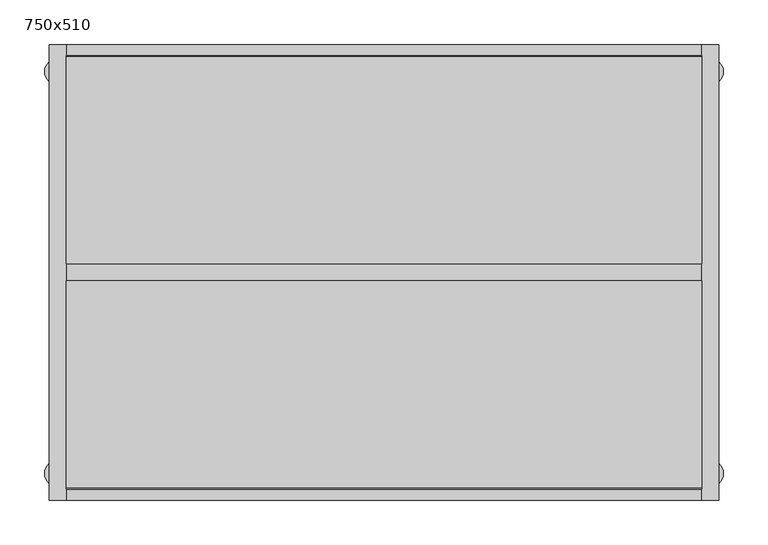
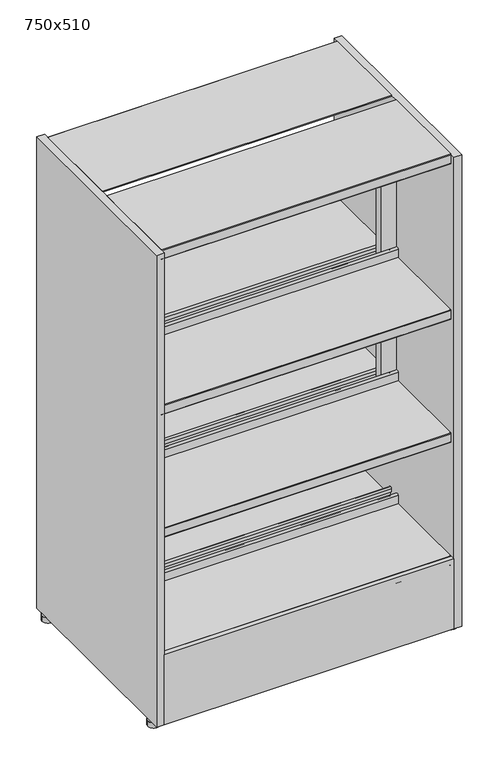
"""IFC4 building model written with IfcOpenShell, lengths in millimetres: furniture geometry, BK Library - Rondus DS - 1240 : 750x510."""

from ifc_helpers import new_model, si_unit, point, frame, frame_2d, origin, origin_with_axes, place, context, project, spatial, polyline, circle_curve, trimmed, segment, composite_curve, outline, extrude, source, transform, mapped, element, save


def furniture_750x510_c864f297(model_context):
    return source(origin(), model_context, "Body", "SweptSolid", [
        extrude(outline(polyline([(356.0, 255.0), (356.0, 242.7476624), (-356.0, 242.7476624), (-356.0, 255.0), (356.0, 255.0)])), frame((0.0, 0.0, 13.6999998), z_axis=(0.0, 0.0, 1.0), x_axis=(1.0, 0.0, 0.0)), (0.0, 0.0, 1.0), 181.4999514),
        extrude(outline(polyline([(356.0, -242.7476624), (356.0, -255.0), (-356.0, -255.0), (-356.0, -242.7476624), (356.0, -242.7476624)])), frame((0.0, 0.0, 13.6999998), z_axis=(0.0, 0.0, 1.0), x_axis=(1.0, 0.0, 0.0)), (0.0, 0.0, 1.0), 181.4999514),
        extrude(outline(polyline([(1106.1999512, -356.0), (391.1999512, -356.0), (391.1999512, 356.0), (1106.1999512, 356.0), (1106.1999512, -356.0)]), holes=[polyline([(1066.1999514, -317.5), (1066.1999514, 317.5), (431.1999514, 317.5), (431.1999514, -317.5), (1066.1999514, -317.5)])]), frame((0.0, -9.5, 0.0), z_axis=(0.0, 1.0, 0.0), x_axis=(0.0, 0.0, 1.0)), (0.0, 0.0, 1.0), 19.0),
        extrude(outline(composite_curve([segment(polyline([(9.5, 1240.0), (241.25, 1240.0)]), True, "CONTINUOUS"), segment(trimmed(circle_curve(frame_2d((241.25, 1238.5)), 1.5), [point((241.25, 1240.0))], [point((242.75, 1238.5))], False, "CARTESIAN"), True, "CONTINUOUS"), segment(polyline([(242.75, 1238.5), (242.75, 1216.5)]), True, "CONTINUOUS"), segment(trimmed(circle_curve(frame_2d((241.25, 1216.5)), 1.5), [point((242.75, 1216.5))], [point((241.25, 1215.0))], False, "CARTESIAN"), True, "CONTINUOUS"), segment(polyline([(241.25, 1215.0), (229.25, 1215.0), (229.25, 1216.5), (241.25, 1216.5), (241.25, 1238.0), (9.5, 1238.0), (9.5, 1240.0)]), True, "CONTINUOUS")], self_intersect=False)), frame((-356.0, 0.0, 0.0), z_axis=(1.0, 0.0, 0.0), x_axis=(0.0, 1.0, 0.0)), (0.0, 0.0, 1.0), 712.0),
        extrude(outline(composite_curve([segment(polyline([(17.75, 835.1999512), (241.25, 835.1999512)]), True, "CONTINUOUS"), segment(trimmed(circle_curve(frame_2d((241.25, 833.6999512)), 1.5), [point((241.25, 835.1999512))], [point((242.75, 833.6999512))], False, "CARTESIAN"), True, "CONTINUOUS"), segment(polyline([(242.75, 833.6999512), (242.75, 812.1999512)]), True, "CONTINUOUS"), segment(trimmed(circle_curve(frame_2d((241.25, 812.1999512)), 1.5), [point((242.75, 812.1999512))], [point((241.25, 810.6999512))], False, "CARTESIAN"), True, "CONTINUOUS"), segment(polyline([(241.25, 810.6999512), (229.25, 810.6999512), (229.25, 812.1999512), (241.25, 812.1999512), (241.25, 833.6999512), (17.7048221, 833.6999512)]), True, "CONTINUOUS"), segment(trimmed(circle_curve(frame_2d((17.7048221, 835.1547733)), 1.4548221), [point((17.7048221, 833.6999512))], [point((16.25, 835.1547733))], False, "CARTESIAN"), True, "CONTINUOUS"), segment(polyline([(16.25, 835.1547733), (16.25, 856.7020126)]), True, "CONTINUOUS"), segment(trimmed(circle_curve(frame_2d((14.25, 856.7020126)), 2.0), [point((16.25, 856.7020126))], [point((12.25, 856.7020126))], True, "CARTESIAN"), True, "CONTINUOUS"), segment(polyline([(12.25, 856.7020126), (12.25, 848.1999512), (10.75, 848.1999512), (10.75, 856.7196336)]), True, "CONTINUOUS"), segment(trimmed(circle_curve(frame_2d((14.25, 856.7196336)), 3.5), [point((10.75, 856.7196336))], [point((17.75, 856.7196336))], False, "CARTESIAN"), True, "CONTINUOUS"), segment(polyline([(17.75, 856.7196336), (17.75, 835.1999512)]), True, "CONTINUOUS")], self_intersect=False)), frame((-356.0, 0.0, 0.0), z_axis=(1.0, 0.0, 0.0), x_axis=(0.0, 1.0, 0.0)), (0.0, 0.0, 1.0), 712.0),
        extrude(outline(composite_curve([segment(polyline([(17.75, 515.1999512), (241.25, 515.1999512)]), True, "CONTINUOUS"), segment(trimmed(circle_curve(frame_2d((241.25, 513.6999512)), 1.5), [point((241.25, 515.1999512))], [point((242.75, 513.6999512))], False, "CARTESIAN"), True, "CONTINUOUS"), segment(polyline([(242.75, 513.6999512), (242.75, 492.1999512)]), True, "CONTINUOUS"), segment(trimmed(circle_curve(frame_2d((241.25, 492.1999512)), 1.5), [point((242.75, 492.1999512))], [point((241.25, 490.6999512))], False, "CARTESIAN"), True, "CONTINUOUS"), segment(polyline([(241.25, 490.6999512), (229.25, 490.6999512), (229.25, 492.1999512), (241.25, 492.1999512), (241.25, 513.6999512), (17.7048221, 513.6999512)]), True, "CONTINUOUS"), segment(trimmed(circle_curve(frame_2d((17.7048221, 515.1547733)), 1.4548221), [point((17.7048221, 513.6999512))], [point((16.25, 515.1547733))], False, "CARTESIAN"), True, "CONTINUOUS"), segment(polyline([(16.25, 515.1547733), (16.25, 536.7020126)]), True, "CONTINUOUS"), segment(trimmed(circle_curve(frame_2d((14.25, 536.7020126)), 2.0), [point((16.25, 536.7020126))], [point((12.25, 536.7020126))], True, "CARTESIAN"), True, "CONTINUOUS"), segment(polyline([(12.25, 536.7020126), (12.25, 528.1999512), (10.75, 528.1999512), (10.75, 536.7196336)]), True, "CONTINUOUS"), segment(trimmed(circle_curve(frame_2d((14.25, 536.7196336)), 3.5), [point((10.75, 536.7196336))], [point((17.75, 536.7196336))], False, "CARTESIAN"), True, "CONTINUOUS"), segment(polyline([(17.75, 536.7196336), (17.75, 515.1999512)]), True, "CONTINUOUS")], self_intersect=False)), frame((-356.0, 0.0, 0.0), z_axis=(1.0, 0.0, 0.0), x_axis=(0.0, 1.0, 0.0)), (0.0, 0.0, 1.0), 712.0),
        extrude(outline(composite_curve([segment(polyline([(17.75, 195.1999512), (241.25, 195.1999512)]), True, "CONTINUOUS"), segment(trimmed(circle_curve(frame_2d((241.25, 193.6999512)), 1.5), [point((241.25, 195.1999512))], [point((242.75, 193.6999512))], False, "CARTESIAN"), True, "CONTINUOUS"), segment(polyline([(242.75, 193.6999512), (242.75, 172.1999512)]), True, "CONTINUOUS"), segment(trimmed(circle_curve(frame_2d((241.25, 172.1999512)), 1.5), [point((242.75, 172.1999512))], [point((241.25, 170.6999512))], False, "CARTESIAN"), True, "CONTINUOUS"), segment(polyline([(241.25, 170.6999512), (229.25, 170.6999512), (229.25, 172.1999512), (241.25, 172.1999512), (241.25, 193.6999512), (17.7048221, 193.6999512)]), True, "CONTINUOUS"), segment(trimmed(circle_curve(frame_2d((17.7048221, 195.1547733)), 1.4548221), [point((17.7048221, 193.6999512))], [point((16.25, 195.1547733))], False, "CARTESIAN"), True, "CONTINUOUS"), segment(polyline([(16.25, 195.1547733), (16.25, 216.7020126)]), True, "CONTINUOUS"), segment(trimmed(circle_curve(frame_2d((14.25, 216.7020126)), 2.0), [point((16.25, 216.7020126))], [point((12.25, 216.7020126))], True, "CARTESIAN"), True, "CONTINUOUS"), segment(polyline([(12.25, 216.7020126), (12.25, 208.1999512), (10.75, 208.1999512), (10.75, 216.7196336)]), True, "CONTINUOUS"), segment(trimmed(circle_curve(frame_2d((14.25, 216.7196336)), 3.5), [point((10.75, 216.7196336))], [point((17.75, 216.7196336))], False, "CARTESIAN"), True, "CONTINUOUS"), segment(polyline([(17.75, 216.7196336), (17.75, 195.1999512)]), True, "CONTINUOUS")], self_intersect=False)), frame((-356.0, 0.0, 0.0), z_axis=(1.0, 0.0, 0.0), x_axis=(0.0, 1.0, 0.0)), (0.0, 0.0, 1.0), 712.0),
        extrude(outline(composite_curve([segment(polyline([(-9.5, 1240.0), (-9.5, 1238.0), (-241.25, 1238.0), (-241.25, 1216.5), (-229.25, 1216.5), (-229.25, 1215.0), (-241.25, 1215.0)]), True, "CONTINUOUS"), segment(trimmed(circle_curve(frame_2d((-241.25, 1216.5)), 1.5), [point((-241.25, 1215.0))], [point((-242.75, 1216.5))], False, "CARTESIAN"), True, "CONTINUOUS"), segment(polyline([(-242.75, 1216.5), (-242.75, 1238.5)]), True, "CONTINUOUS"), segment(trimmed(circle_curve(frame_2d((-241.25, 1238.5)), 1.5), [point((-242.75, 1238.5))], [point((-241.25, 1240.0))], False, "CARTESIAN"), True, "CONTINUOUS"), segment(polyline([(-241.25, 1240.0), (-9.5, 1240.0)]), True, "CONTINUOUS")], self_intersect=False)), frame((-356.0, 0.0, 0.0), z_axis=(1.0, 0.0, 0.0), x_axis=(0.0, 1.0, 0.0)), (0.0, 0.0, 1.0), 712.0),
        extrude(outline(composite_curve([segment(polyline([(-17.75, 835.1999512), (-17.75, 856.7196336)]), True, "CONTINUOUS"), segment(trimmed(circle_curve(frame_2d((-14.25, 856.7196336)), 3.5), [point((-17.75, 856.7196336))], [point((-10.75, 856.7196336))], False, "CARTESIAN"), True, "CONTINUOUS"), segment(polyline([(-10.75, 856.7196336), (-10.75, 848.1999512), (-12.25, 848.1999512), (-12.25, 856.7020126)]), True, "CONTINUOUS"), segment(trimmed(circle_curve(frame_2d((-14.25, 856.7020126)), 2.0), [point((-12.25, 856.7020126))], [point((-16.25, 856.7020126))], True, "CARTESIAN"), True, "CONTINUOUS"), segment(polyline([(-16.25, 856.7020126), (-16.25, 835.1547733)]), True, "CONTINUOUS"), segment(trimmed(circle_curve(frame_2d((-17.7048221, 835.1547733)), 1.4548221), [point((-16.25, 835.1547733))], [point((-17.7048221, 833.6999512))], False, "CARTESIAN"), True, "CONTINUOUS"), segment(polyline([(-17.7048221, 833.6999512), (-241.25, 833.6999512), (-241.25, 812.1999512), (-229.25, 812.1999512), (-229.25, 810.6999512), (-241.25, 810.6999512)]), True, "CONTINUOUS"), segment(trimmed(circle_curve(frame_2d((-241.25, 812.1999512)), 1.5), [point((-241.25, 810.6999512))], [point((-242.75, 812.1999512))], False, "CARTESIAN"), True, "CONTINUOUS"), segment(polyline([(-242.75, 812.1999512), (-242.75, 833.6999512)]), True, "CONTINUOUS"), segment(trimmed(circle_curve(frame_2d((-241.25, 833.6999512)), 1.5), [point((-242.75, 833.6999512))], [point((-241.25, 835.1999512))], False, "CARTESIAN"), True, "CONTINUOUS"), segment(polyline([(-241.25, 835.1999512), (-17.75, 835.1999512)]), True, "CONTINUOUS")], self_intersect=False)), frame((-356.0, 0.0, 0.0), z_axis=(1.0, 0.0, 0.0), x_axis=(0.0, 1.0, 0.0)), (0.0, 0.0, 1.0), 712.0),
        extrude(outline(composite_curve([segment(polyline([(-17.75, 515.1999512), (-17.75, 536.7196336)]), True, "CONTINUOUS"), segment(trimmed(circle_curve(frame_2d((-14.25, 536.7196336)), 3.5), [point((-17.75, 536.7196336))], [point((-10.75, 536.7196336))], False, "CARTESIAN"), True, "CONTINUOUS"), segment(polyline([(-10.75, 536.7196336), (-10.75, 528.1999512), (-12.25, 528.1999512), (-12.25, 536.7020126)]), True, "CONTINUOUS"), segment(trimmed(circle_curve(frame_2d((-14.25, 536.7020126)), 2.0), [point((-12.25, 536.7020126))], [point((-16.25, 536.7020126))], True, "CARTESIAN"), True, "CONTINUOUS"), segment(polyline([(-16.25, 536.7020126), (-16.25, 515.1547733)]), True, "CONTINUOUS"), segment(trimmed(circle_curve(frame_2d((-17.7048221, 515.1547733)), 1.4548221), [point((-16.25, 515.1547733))], [point((-17.7048221, 513.6999512))], False, "CARTESIAN"), True, "CONTINUOUS"), segment(polyline([(-17.7048221, 513.6999512), (-241.25, 513.6999512), (-241.25, 492.1999512), (-229.25, 492.1999512), (-229.25, 490.6999512), (-241.25, 490.6999512)]), True, "CONTINUOUS"), segment(trimmed(circle_curve(frame_2d((-241.25, 492.1999512)), 1.5), [point((-241.25, 490.6999512))], [point((-242.75, 492.1999512))], False, "CARTESIAN"), True, "CONTINUOUS"), segment(polyline([(-242.75, 492.1999512), (-242.75, 513.6999512)]), True, "CONTINUOUS"), segment(trimmed(circle_curve(frame_2d((-241.25, 513.6999512)), 1.5), [point((-242.75, 513.6999512))], [point((-241.25, 515.1999512))], False, "CARTESIAN"), True, "CONTINUOUS"), segment(polyline([(-241.25, 515.1999512), (-17.75, 515.1999512)]), True, "CONTINUOUS")], self_intersect=False)), frame((-356.0, 0.0, 0.0), z_axis=(1.0, 0.0, 0.0), x_axis=(0.0, 1.0, 0.0)), (0.0, 0.0, 1.0), 712.0),
        extrude(outline(composite_curve([segment(polyline([(-17.75, 195.1999512), (-17.75, 216.7196336)]), True, "CONTINUOUS"), segment(trimmed(circle_curve(frame_2d((-14.25, 216.7196336)), 3.5), [point((-17.75, 216.7196336))], [point((-10.75, 216.7196336))], False, "CARTESIAN"), True, "CONTINUOUS"), segment(polyline([(-10.75, 216.7196336), (-10.75, 208.1999512), (-12.25, 208.1999512), (-12.25, 216.7020126)]), True, "CONTINUOUS"), segment(trimmed(circle_curve(frame_2d((-14.25, 216.7020126)), 2.0), [point((-12.25, 216.7020126))], [point((-16.25, 216.7020126))], True, "CARTESIAN"), True, "CONTINUOUS"), segment(polyline([(-16.25, 216.7020126), (-16.25, 195.1547733)]), True, "CONTINUOUS"), segment(trimmed(circle_curve(frame_2d((-17.7048221, 195.1547733)), 1.4548221), [point((-16.25, 195.1547733))], [point((-17.7048221, 193.6999512))], False, "CARTESIAN"), True, "CONTINUOUS"), segment(polyline([(-17.7048221, 193.6999512), (-241.25, 193.6999512), (-241.25, 172.1999512), (-229.25, 172.1999512), (-229.25, 170.6999512), (-241.25, 170.6999512)]), True, "CONTINUOUS"), segment(trimmed(circle_curve(frame_2d((-241.25, 172.1999512)), 1.5), [point((-241.25, 170.6999512))], [point((-242.75, 172.1999512))], False, "CARTESIAN"), True, "CONTINUOUS"), segment(polyline([(-242.75, 172.1999512), (-242.75, 193.6999512)]), True, "CONTINUOUS"), segment(trimmed(circle_curve(frame_2d((-241.25, 193.6999512)), 1.5), [point((-242.75, 193.6999512))], [point((-241.25, 195.1999512))], False, "CARTESIAN"), True, "CONTINUOUS"), segment(polyline([(-241.25, 195.1999512), (-17.75, 195.1999512)]), True, "CONTINUOUS")], self_intersect=False)), frame((-356.0, 0.0, 0.0), z_axis=(1.0, 0.0, 0.0), x_axis=(0.0, 1.0, 0.0)), (0.0, 0.0, 1.0), 712.0),
        extrude(outline(polyline([(356.0, 255.0), (375.0, 255.0), (375.0, -255.0), (356.0, -255.0), (356.0, 255.0)])), frame((0.0, 0.0, 13.6999998), z_axis=(0.0, 0.0, 1.0), x_axis=(1.0, 0.0, 0.0)), (0.0, 0.0, 1.0), 1226.3000002),
        extrude(outline(polyline([(-356.0, 255.0), (-356.0, -255.0), (-375.0, -255.0), (-375.0, 255.0), (-356.0, 255.0)])), frame((0.0, 0.0, 13.6999998), z_axis=(0.0, 0.0, 1.0), x_axis=(1.0, 0.0, 0.0)), (0.0, 0.0, 1.0), 1226.3000002),
        extrude(outline(composite_curve([segment(trimmed(circle_curve(frame_2d((365.5005427, 224.9952633)), 14.4994573), [point((380.0, 224.9952633))], [point((351.0010853, 224.9952633))], False, "CARTESIAN"), True, "CONTINUOUS"), segment(trimmed(circle_curve(frame_2d((365.5005427, 224.9952633)), 14.4994573), [point((351.0010853, 224.9952633))], [point((380.0, 224.9952633))], False, "CARTESIAN"), True, "CONTINUOUS")], self_intersect=False)), origin_with_axes(), (0.0, 0.0, 1.0), 13.6999998),
        extrude(outline(composite_curve([segment(trimmed(circle_curve(frame_2d((-365.5005427, 224.9952633)), 14.4994573), [point((-380.0, 224.9952633))], [point((-351.0010853, 224.9952633))], False, "CARTESIAN"), True, "CONTINUOUS"), segment(trimmed(circle_curve(frame_2d((-365.5005427, 224.9952633)), 14.4994573), [point((-351.0010853, 224.9952633))], [point((-380.0, 224.9952633))], False, "CARTESIAN"), True, "CONTINUOUS")], self_intersect=False)), origin_with_axes(), (0.0, 0.0, 1.0), 13.6999998),
        extrude(outline(composite_curve([segment(trimmed(circle_curve(frame_2d((365.5005427, -224.9952633)), 14.4994573), [point((380.0, -224.9952633))], [point((351.0010853, -224.9952633))], False, "CARTESIAN"), True, "CONTINUOUS"), segment(trimmed(circle_curve(frame_2d((365.5005427, -224.9952633)), 14.4994573), [point((351.0010853, -224.9952633))], [point((380.0, -224.9952633))], False, "CARTESIAN"), True, "CONTINUOUS")], self_intersect=False)), origin_with_axes(), (0.0, 0.0, 1.0), 13.6999998),
        extrude(outline(composite_curve([segment(trimmed(circle_curve(frame_2d((-365.5005427, -224.9952633)), 14.4994573), [point((-380.0, -224.9952633))], [point((-351.0010853, -224.9952633))], False, "CARTESIAN"), True, "CONTINUOUS"), segment(trimmed(circle_curve(frame_2d((-365.5005427, -224.9952633)), 14.4994573), [point((-351.0010853, -224.9952633))], [point((-380.0, -224.9952633))], False, "CARTESIAN"), True, "CONTINUOUS")], self_intersect=False)), origin_with_axes(), (0.0, 0.0, 1.0), 13.6999998),
    ])


if __name__ == "__main__":
    model = new_model("IFC4")
    model_context = context("Model", 3, world=origin())
    ifc_project = project(units=[si_unit("LENGTHUNIT", "METRE", prefix="MILLI")], contexts=[model_context])
    site = spatial("IfcSite", under=ifc_project)
    building = spatial("IfcBuilding", under=site)
    placement = place(None, origin())
    furniture_750x510_shape = furniture_750x510_c864f297(model_context)
    element("IfcFurniture", 1, ObjectType="BK Library - Rondus DS - 1240 : 750x510", at=placement, inside=building, context=model_context, shape_type="MappedRepresentation", body=[
        mapped(furniture_750x510_shape, transform((0.0, 0.0, 0.0), x_axis=(1.0, 0.0, 0.0), y_axis=(0.0, 1.0, 0.0), z_axis=(0.0, 0.0, 1.0))),
    ])
    save(model, "model.ifc")
